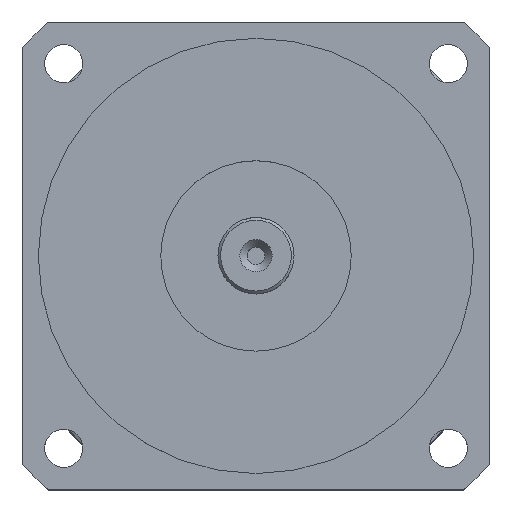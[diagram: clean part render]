
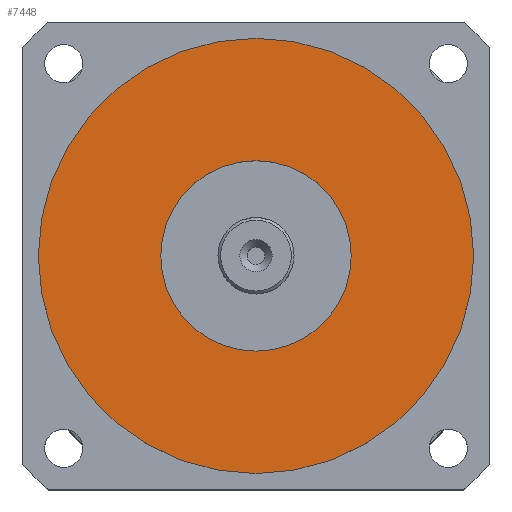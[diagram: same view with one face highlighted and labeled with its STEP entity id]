
A CAD part, top view. The second image highlights one B-rep face of the part: STEP entity #7448.
In plain terms, the highlighted planar face has unit normal (0, 0, 1).
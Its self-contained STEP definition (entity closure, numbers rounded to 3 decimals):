
#2970=VERTEX_POINT('',#11365);
#2971=VERTEX_POINT('',#11369);
#3456=CIRCLE('',#8067,17.5);
#3457=CIRCLE('',#8070,40.);
#4009=EDGE_CURVE('',#2970,#2970,#3456,.T.);
#4010=EDGE_CURVE('',#2971,#2971,#3457,.T.);
#5065=ORIENTED_EDGE('',*,*,#4010,.F.);
#5066=ORIENTED_EDGE('',*,*,#4009,.T.);
#6468=EDGE_LOOP('',(#5065));
#6469=EDGE_LOOP('',(#5066));
#6978=FACE_BOUND('',#6468,.T.);
#6979=FACE_BOUND('',#6469,.T.);
#7448=ADVANCED_FACE('',(#6978,#6979),#9215,.F.);
#8067=AXIS2_PLACEMENT_3D('',#11364,#13785,#13786);
#8070=AXIS2_PLACEMENT_3D('',#11368,#13790,#13791);
#8072=AXIS2_PLACEMENT_3D('',#11372,#13794,$);
#9215=PLANE('',#8072);
#11364=CARTESIAN_POINT('',(0.,0.,177.));
#11365=CARTESIAN_POINT('',(17.5,0.,177.));
#11368=CARTESIAN_POINT('',(0.,0.,177.));
#11369=CARTESIAN_POINT('',(40.,0.,177.));
#11372=CARTESIAN_POINT('',(0.,0.,177.));
#13785=DIRECTION('',(0.,0.,-1.));
#13786=DIRECTION('',(-17.5,0.,0.));
#13790=DIRECTION('',(0.,0.,-1.));
#13791=DIRECTION('',(-40.,0.,0.));
#13794=DIRECTION('',(0.,0.,-1.));
